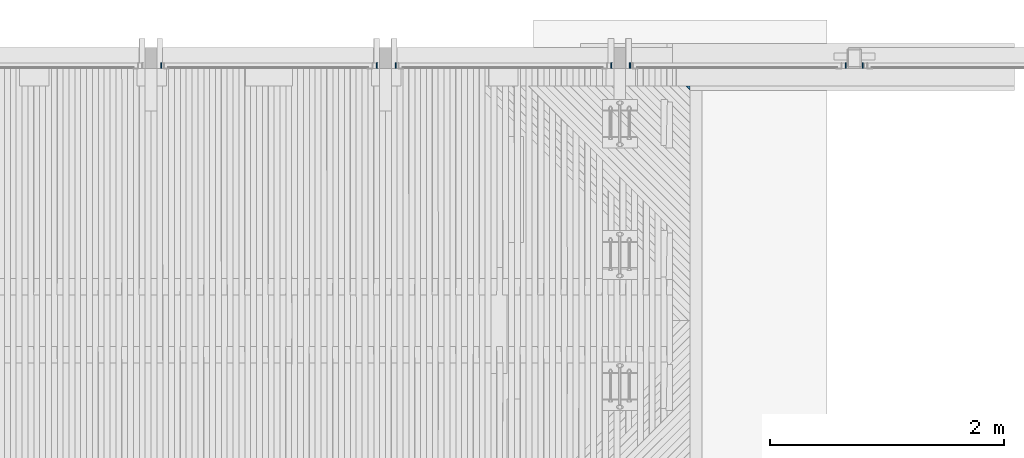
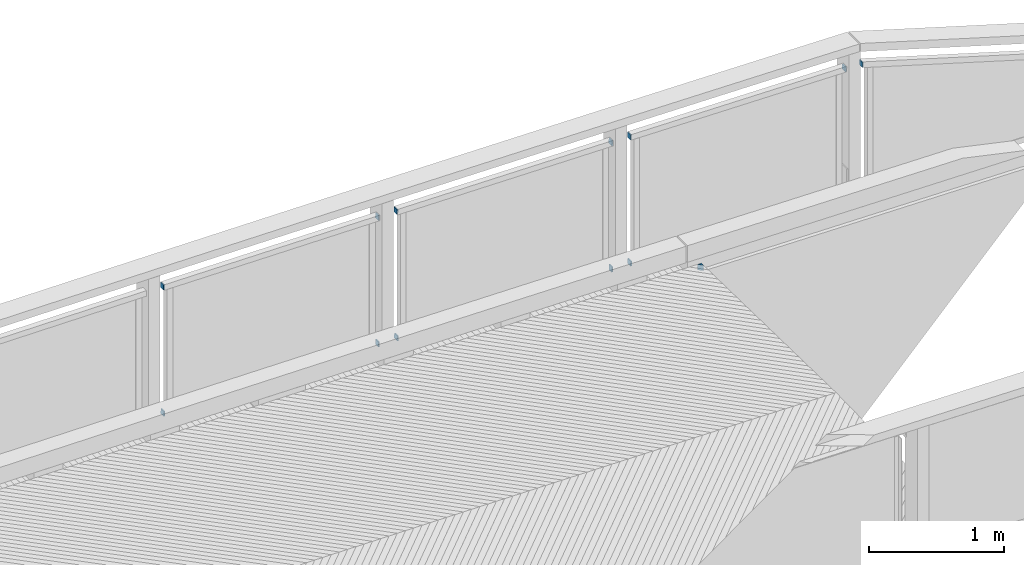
# One storey, part 64 of 65: 13 beams.
"""IFC2X3 building model written with IfcOpenShell, lengths in millimetres."""

from ifc_helpers import new_model, si_unit, frame, origin_with_axes, place, context, subcontext, project, spatial, faceted_brep, material, type_object, element, save


model = new_model("IFC2X3")

# Units and contexts
model_context = context("Model", 3, precision=1e-05, world=origin_with_axes())
body_context = subcontext(model_context, "Body", "Model", "MODEL_VIEW")
ifc_project = project(units=[si_unit("LENGTHUNIT", "METRE", prefix="MILLI"), si_unit("AREAUNIT", "SQUARE_METRE"), si_unit("VOLUMEUNIT", "CUBIC_METRE"), si_unit("MASSUNIT", "GRAM", prefix="KILO"), si_unit("TIMEUNIT", "SECOND"), si_unit("PLANEANGLEUNIT", "RADIAN"), si_unit("SOLIDANGLEUNIT", "STERADIAN"), si_unit("THERMODYNAMICTEMPERATUREUNIT", "DEGREE_CELSIUS"), si_unit("LUMINOUSINTENSITYUNIT", "LUMEN")], contexts=[model_context])

# Site, building, storey
site_placement = place(None, origin_with_axes())
site = spatial("IfcSite", under=ifc_project, at=site_placement, Name="Undefined", CompositionType="ELEMENT")
building_placement = place(site_placement, origin_with_axes())
building = spatial("IfcBuilding", under=site, at=building_placement, Name="Undefined", CompositionType="ELEMENT")
storey_placement = place(building_placement, origin_with_axes())
storey = spatial("IfcBuildingStorey", under=building, at=storey_placement, Name="Undefined", CompositionType="ELEMENT", Elevation=0.0)

# Beams
ifc_material_1 = material(Name="STEEL/S235JR")
beam_type_1 = type_object("IfcBeamType", Name="PL45*10", PredefinedType="NOTDEFINED")
for number, where, z_axis, x_axis, name in (
    (1, (16087.2729834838, 24519.9900000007, 4384.49244319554), (0.0294394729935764, 0.0, 0.999566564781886), (0.0, 1.0, 0.0), "BEAM"),
    (2, (17926.2037972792, 24519.9900000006, 4357.20439384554), (0.0294394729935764, 0.0, 0.999566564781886), (0.0, 1.0, 0.0), "BEAM"),
    (3, (14087.3627533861, 24519.9900000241, 4407.98502007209), (0.0261245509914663, 0.0, 0.999658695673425), (0.0, 1.0, 0.0), "BEAM"),
    (4, (15926.3739481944, 24519.9900000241, 4386.79537761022), (0.0261245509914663, 0.0, 0.999658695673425), (0.0, 1.0, 0.0), "BEAM"),
    (5, (12087.452065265, 24519.9900000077, 4424.85169918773), (0.0228110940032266, 0.0, 0.999739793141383), (0.0, 1.0, 0.0), "BEAM"),
    (6, (13926.5233906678, 24519.9900000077, 4409.75747338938), (0.0228110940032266, 0.0, 0.999739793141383), (0.0, 1.0, 0.0), "BEAM"),
    (7, (18072.4947452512, 24519.9900000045, 4346.75135175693), (0.0, 0.0, 1.0), (0.0, 1.0, 0.0), "BEAM"),
    (8, (16088.7958011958, 24519.9900000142, 3239.47282194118), (-0.0294383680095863, 0.0, -0.999566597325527), (0.0, 1.0, 0.0), "BEAM"),
    (9, (14088.6263698, 24519.9900000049, 3262.97489842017), (-0.0261245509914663, 0.0, -0.999658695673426), (0.0, 1.0, 0.0), "BEAM"),
    (10, (15927.6466317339, 24520.0199999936, 3241.78532221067), (-0.0267329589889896, 0.0, -0.999642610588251), (0.0, 1.0, 0.0), "BEAM"),
    (11, (12088.4774217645, 24519.9900000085, 3279.84218000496), (-0.0228110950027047, 0.0, -0.999739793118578), (0.0, 1.0, 0.0), "BEAM"),
    (12, (13927.5578140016, 24520.0199999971, 3264.74805051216), (-0.023419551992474, 0.0, -0.99972572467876), (0.0, 1.0, 0.0), "BEAM"),
):
    element("IfcBeam", number, at=place(storey_placement, frame(where, z_axis=z_axis, x_axis=x_axis)), inside=storey, type_object=beam_type_1, material=ifc_material_1, Name=name, ObjectType="PL45*10", context=body_context, shape_type="Brep", body=[
        faceted_brep([(0.0, 5.0, -22.5), (0.0, 5.0, 22.5), (45.0, 5.0, 22.5), (45.0, 5.0, -22.5), (0.0, -5.0, 22.5), (45.0, -5.0, 22.5), (0.0, -5.0, -22.5000000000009), (45.0, -5.0, -22.5000000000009)], [[[0, 1, 2, 3]], [[1, 4, 5, 2]], [[4, 6, 7, 5]], [[6, 0, 3, 7]], [[5, 7, 3, 2]], [[6, 4, 1, 0]]]),
    ])
ifc_material_2 = material(Name="TIMBER/Timber_Undefined")
beam_type_2 = type_object("IfcBeamType", Name="50*50", PredefinedType="NOTDEFINED")
beam_placement = place(storey_placement, frame((18602.4451192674, 22365.4998996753, 3142.76655719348), z_axis=(0.706778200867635, 0.706981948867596, -0.0253199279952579), x_axis=(-0.707258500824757, 0.706948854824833, -0.00295460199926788)))
element("IfcBeam", 13, at=beam_placement, inside=storey, type_object=beam_type_2, material=ifc_material_2, Name="BEAM", ObjectType="50*50", context=body_context, shape_type="Brep", body=[
    faceted_brep([(2854.34301907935, -24.9999999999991, -25.0000000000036), (2852.92877373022, 25.0000000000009, -25.0), (2829.88273146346, 25.0000000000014, -1.95503652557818), (2830.03050958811, -24.9999999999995, -0.68862858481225), (2805.73564804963, -24.9999999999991, -24.9999999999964), (2806.85341784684, 25.0000000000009, -25.0)], [[[0, 1, 2, 3]], [[0, 3, 4]], [[1, 0, 4, 5]], [[1, 5, 2]], [[4, 3, 2, 5]]]),
])

save(model, "model.ifc")
